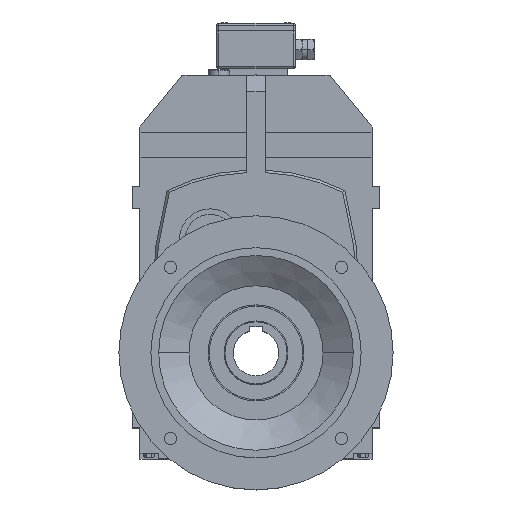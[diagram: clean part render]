
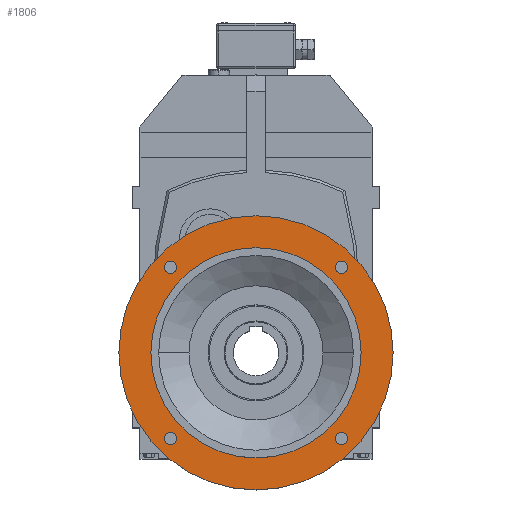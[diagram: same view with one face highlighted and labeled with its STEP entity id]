
A CAD part, top view. The second image highlights one B-rep face of the part: STEP entity #1806.
In plain terms, the highlighted planar face has unit normal (0, 0, 1).
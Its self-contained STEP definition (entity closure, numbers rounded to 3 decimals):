
#713 = FACE_OUTER_BOUND ( 'NONE', #28059, .T. ) ;
#1116 = DIRECTION ( 'NONE',  ( -1., 0., 0. ) ) ;
#1273 = CARTESIAN_POINT ( 'NONE',  ( -150.348, -68.693, 121. ) ) ;
#1806 = ADVANCED_FACE ( 'NONE', ( #3677, #11881, #30487, #20612, #713, #21797 ), #30879, .F. ) ;
#1999 = ORIENTED_EDGE ( 'NONE', *, *, #31646, .F. ) ;
#2089 = AXIS2_PLACEMENT_3D ( 'NONE', #28642, #6333, #17587 ) ;
#2227 = CARTESIAN_POINT ( 'NONE',  ( -150.348, 46.307, 121. ) ) ;
#2622 = CARTESIAN_POINT ( 'NONE',  ( -49.907, 24.999, 121. ) ) ;
#3604 = ORIENTED_EDGE ( 'NONE', *, *, #22605, .T. ) ;
#3608 = DIRECTION ( 'NONE',  ( 0., -1., 0. ) ) ;
#3677 = FACE_BOUND ( 'NONE', #46408, .T. ) ;
#3729 = ORIENTED_EDGE ( 'NONE', *, *, #40603, .T. ) ;
#3964 = VERTEX_POINT ( 'NONE', #13674 ) ;
#4136 = DIRECTION ( 'NONE',  ( -1., 0., 0. ) ) ;
#5166 = DIRECTION ( 'NONE',  ( 0., 0., -1. ) ) ;
#5178 = DIRECTION ( 'NONE',  ( 0., 1., 0. ) ) ;
#5220 = DIRECTION ( 'NONE',  ( -1., 0., 0. ) ) ;
#5266 = AXIS2_PLACEMENT_3D ( 'NONE', #1273, #23748, #23937 ) ;
#5535 = ORIENTED_EDGE ( 'NONE', *, *, #34239, .F. ) ;
#5630 = ORIENTED_EDGE ( 'NONE', *, *, #26438, .F. ) ;
#6294 = CARTESIAN_POINT ( 'NONE',  ( -150.348, 81.307, 121. ) ) ;
#6333 = DIRECTION ( 'NONE',  ( 0., 0., -1. ) ) ;
#7006 = EDGE_CURVE ( 'NONE', #11398, #38870, #42687, .T. ) ;
#7196 = VERTEX_POINT ( 'NONE', #29003 ) ;
#7291 = EDGE_CURVE ( 'NONE', #12544, #34817, #33327, .T. ) ;
#8509 = ORIENTED_EDGE ( 'NONE', *, *, #40116, .T. ) ;
#8736 = DIRECTION ( 'NONE',  ( 0., 1., 0. ) ) ;
#8906 = AXIS2_PLACEMENT_3D ( 'NONE', #44459, #36214, #3608 ) ;
#9013 = DIRECTION ( 'NONE',  ( 0., 1., 0. ) ) ;
#9173 = DIRECTION ( 'NONE',  ( 0., 0., -1. ) ) ;
#10355 = CIRCLE ( 'NONE', #5266, 150. ) ;
#11252 = ORIENTED_EDGE ( 'NONE', *, *, #23403, .T. ) ;
#11398 = VERTEX_POINT ( 'NONE', #34434 ) ;
#11881 = FACE_BOUND ( 'NONE', #22798, .T. ) ;
#12544 = VERTEX_POINT ( 'NONE', #24267 ) ;
#13674 = CARTESIAN_POINT ( 'NONE',  ( -150.348, -183.693, 121. ) ) ;
#13700 = DIRECTION ( 'NONE',  ( 0., 0., -1. ) ) ;
#14219 = CIRCLE ( 'NONE', #40614, 6.75 ) ;
#15618 = EDGE_LOOP ( 'NONE', ( #1999, #5535 ) ) ;
#16038 = DIRECTION ( 'NONE',  ( 0., 0., -1. ) ) ;
#16337 = DIRECTION ( 'NONE',  ( 0., -1., 0. ) ) ;
#17587 = DIRECTION ( 'NONE',  ( 0., 1., 0. ) ) ;
#18571 = EDGE_LOOP ( 'NONE', ( #27922, #3604 ) ) ;
#20077 = CARTESIAN_POINT ( 'NONE',  ( -244.04, 24.999, 121. ) ) ;
#20243 = DIRECTION ( 'NONE',  ( 0., 0., -1. ) ) ;
#20322 = DIRECTION ( 'NONE',  ( 0., 0., 1. ) ) ;
#20612 = FACE_BOUND ( 'NONE', #18571, .T. ) ;
#20837 = CIRCLE ( 'NONE', #8906, 115. ) ;
#20862 = VERTEX_POINT ( 'NONE', #44685 ) ;
#21797 = FACE_BOUND ( 'NONE', #15618, .T. ) ;
#22605 = EDGE_CURVE ( 'NONE', #34817, #12544, #14219, .T. ) ;
#22749 = DIRECTION ( 'NONE',  ( 0., 0., -1. ) ) ;
#22798 = EDGE_LOOP ( 'NONE', ( #8509, #36519 ) ) ;
#23403 = EDGE_CURVE ( 'NONE', #20862, #42672, #39567, .T. ) ;
#23456 = DIRECTION ( 'NONE',  ( 0., 1., 0. ) ) ;
#23581 = DIRECTION ( 'NONE',  ( 0., 0., -1. ) ) ;
#23748 = DIRECTION ( 'NONE',  ( 0., 0., -1. ) ) ;
#23937 = DIRECTION ( 'NONE',  ( 0., -1., 0. ) ) ;
#24267 = CARTESIAN_POINT ( 'NONE',  ( -250.79, 24.999, 121. ) ) ;
#24372 = CIRCLE ( 'NONE', #44617, 6.75 ) ;
#24375 = EDGE_LOOP ( 'NONE', ( #11252, #33827 ) ) ;
#25490 = AXIS2_PLACEMENT_3D ( 'NONE', #32048, #13700, #42768 ) ;
#26308 = CIRCLE ( 'NONE', #40650, 6.75 ) ;
#26438 = EDGE_CURVE ( 'NONE', #7196, #43646, #36450, .T. ) ;
#27922 = ORIENTED_EDGE ( 'NONE', *, *, #7291, .T. ) ;
#28059 = EDGE_LOOP ( 'NONE', ( #5630, #34601 ) ) ;
#28548 = AXIS2_PLACEMENT_3D ( 'NONE', #38247, #41986, #16337 ) ;
#28642 = CARTESIAN_POINT ( 'NONE',  ( -244.04, -162.385, 121. ) ) ;
#29003 = CARTESIAN_POINT ( 'NONE',  ( -150.348, -218.693, 121. ) ) ;
#30079 = CARTESIAN_POINT ( 'NONE',  ( -244.04, 24.999, 121. ) ) ;
#30388 = CARTESIAN_POINT ( 'NONE',  ( -150.348, 81.307, 121. ) ) ;
#30487 = FACE_BOUND ( 'NONE', #24375, .T. ) ;
#30790 = CIRCLE ( 'NONE', #25490, 6.75 ) ;
#30879 = PLANE ( 'NONE',  #32437 ) ;
#31258 = CIRCLE ( 'NONE', #33968, 6.75 ) ;
#31292 = CARTESIAN_POINT ( 'NONE',  ( -56.657, -162.385, 121. ) ) ;
#31406 = CARTESIAN_POINT ( 'NONE',  ( -56.657, -162.385, 121. ) ) ;
#31646 = EDGE_CURVE ( 'NONE', #3964, #40579, #48054, .T. ) ;
#32048 = CARTESIAN_POINT ( 'NONE',  ( -56.657, 24.999, 121. ) ) ;
#32220 = VERTEX_POINT ( 'NONE', #2622 ) ;
#32437 = AXIS2_PLACEMENT_3D ( 'NONE', #30388, #23581, #8736 ) ;
#33327 = CIRCLE ( 'NONE', #41258, 6.75 ) ;
#33827 = ORIENTED_EDGE ( 'NONE', *, *, #38123, .T. ) ;
#33968 = AXIS2_PLACEMENT_3D ( 'NONE', #38593, #16038, #5220 ) ;
#34239 = EDGE_CURVE ( 'NONE', #40579, #3964, #20837, .T. ) ;
#34389 = EDGE_CURVE ( 'NONE', #32220, #40244, #31258, .T. ) ;
#34434 = CARTESIAN_POINT ( 'NONE',  ( -56.657, -169.135, 121. ) ) ;
#34601 = ORIENTED_EDGE ( 'NONE', *, *, #42948, .F. ) ;
#34817 = VERTEX_POINT ( 'NONE', #41014 ) ;
#35634 = ORIENTED_EDGE ( 'NONE', *, *, #34389, .T. ) ;
#36214 = DIRECTION ( 'NONE',  ( 0., 0., 1. ) ) ;
#36450 = CIRCLE ( 'NONE', #28548, 150. ) ;
#36499 = AXIS2_PLACEMENT_3D ( 'NONE', #42555, #20322, #42723 ) ;
#36519 = ORIENTED_EDGE ( 'NONE', *, *, #7006, .T. ) ;
#37322 = CARTESIAN_POINT ( 'NONE',  ( -56.657, -155.635, 121. ) ) ;
#38123 = EDGE_CURVE ( 'NONE', #42672, #20862, #24372, .T. ) ;
#38247 = CARTESIAN_POINT ( 'NONE',  ( -150.348, -68.693, 121. ) ) ;
#38526 = CARTESIAN_POINT ( 'NONE',  ( -244.04, -162.385, 121. ) ) ;
#38593 = CARTESIAN_POINT ( 'NONE',  ( -56.657, 24.999, 121. ) ) ;
#38870 = VERTEX_POINT ( 'NONE', #37322 ) ;
#39567 = CIRCLE ( 'NONE', #2089, 6.75 ) ;
#40116 = EDGE_CURVE ( 'NONE', #38870, #11398, #26308, .T. ) ;
#40244 = VERTEX_POINT ( 'NONE', #40820 ) ;
#40579 = VERTEX_POINT ( 'NONE', #2227 ) ;
#40601 = AXIS2_PLACEMENT_3D ( 'NONE', #31406, #42286, #5178 ) ;
#40603 = EDGE_CURVE ( 'NONE', #40244, #32220, #30790, .T. ) ;
#40614 = AXIS2_PLACEMENT_3D ( 'NONE', #20077, #20243, #1116 ) ;
#40650 = AXIS2_PLACEMENT_3D ( 'NONE', #31292, #9173, #9013 ) ;
#40820 = CARTESIAN_POINT ( 'NONE',  ( -63.407, 24.999, 121. ) ) ;
#41014 = CARTESIAN_POINT ( 'NONE',  ( -237.29, 24.999, 121. ) ) ;
#41258 = AXIS2_PLACEMENT_3D ( 'NONE', #30079, #22749, #4136 ) ;
#41986 = DIRECTION ( 'NONE',  ( 0., 0., -1. ) ) ;
#42165 = CARTESIAN_POINT ( 'NONE',  ( -244.04, -169.135, 121. ) ) ;
#42286 = DIRECTION ( 'NONE',  ( 0., 0., -1. ) ) ;
#42555 = CARTESIAN_POINT ( 'NONE',  ( -150.348, -68.693, 121. ) ) ;
#42672 = VERTEX_POINT ( 'NONE', #42165 ) ;
#42687 = CIRCLE ( 'NONE', #40601, 6.75 ) ;
#42723 = DIRECTION ( 'NONE',  ( 0., -1., 0. ) ) ;
#42768 = DIRECTION ( 'NONE',  ( -1., 0., 0. ) ) ;
#42948 = EDGE_CURVE ( 'NONE', #43646, #7196, #10355, .T. ) ;
#43646 = VERTEX_POINT ( 'NONE', #6294 ) ;
#44459 = CARTESIAN_POINT ( 'NONE',  ( -150.348, -68.693, 121. ) ) ;
#44617 = AXIS2_PLACEMENT_3D ( 'NONE', #38526, #5166, #23456 ) ;
#44685 = CARTESIAN_POINT ( 'NONE',  ( -244.04, -155.635, 121. ) ) ;
#46408 = EDGE_LOOP ( 'NONE', ( #3729, #35634 ) ) ;
#48054 = CIRCLE ( 'NONE', #36499, 115. ) ;
